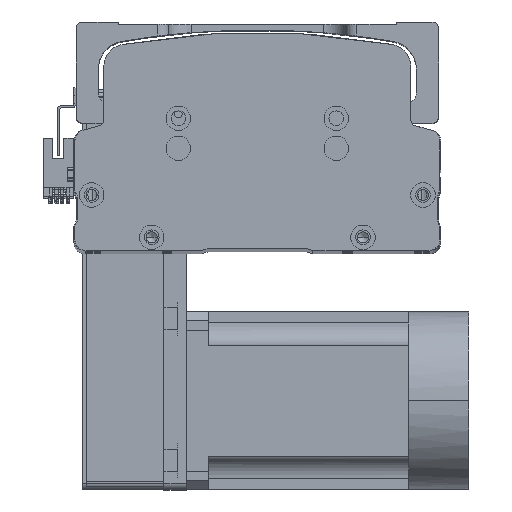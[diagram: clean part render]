
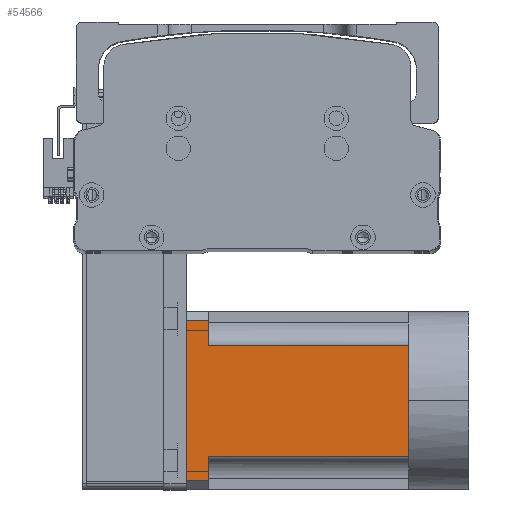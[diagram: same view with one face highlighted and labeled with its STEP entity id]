
A CAD part, top view. The second image highlights one B-rep face of the part: STEP entity #54566.
In plain terms, the highlighted planar face has unit normal (0, 0, 1) as drawn and (0, 0, -1) by its records, which use the part's own axes.
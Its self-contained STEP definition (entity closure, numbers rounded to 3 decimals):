
#206 = VECTOR ( 'NONE', #416, 1000. ) ;
#318 = AXIS2_PLACEMENT_3D ( 'NONE', #56069, #36808, #7682 ) ;
#416 = DIRECTION ( 'NONE',  ( 0., 1., 0. ) ) ;
#1417 = DIRECTION ( 'NONE',  ( -1., 0., 0. ) ) ;
#1751 = EDGE_CURVE ( 'NONE', #3604, #61867, #11589, .T. ) ;
#2684 = LINE ( 'NONE', #28894, #26969 ) ;
#3604 = VERTEX_POINT ( 'NONE', #12046 ) ;
#3977 = ORIENTED_EDGE ( 'NONE', *, *, #29761, .T. ) ;
#5838 = VERTEX_POINT ( 'NONE', #6370 ) ;
#6370 = CARTESIAN_POINT ( 'NONE',  ( 36., 100., -40. ) ) ;
#7682 = DIRECTION ( 'NONE',  ( -1., 0., 0. ) ) ;
#7781 = LINE ( 'NONE', #30631, #57902 ) ;
#8969 = VERTEX_POINT ( 'NONE', #42639 ) ;
#9330 = DIRECTION ( 'NONE',  ( -1., 0., 0. ) ) ;
#9801 = VECTOR ( 'NONE', #55827, 1000. ) ;
#11589 = LINE ( 'NONE', #29490, #206 ) ;
#11627 = EDGE_CURVE ( 'NONE', #34892, #8969, #31180, .T. ) ;
#11924 = VECTOR ( 'NONE', #52700, 1000. ) ;
#12046 = CARTESIAN_POINT ( 'NONE',  ( -36., 90., -40. ) ) ;
#14218 = CARTESIAN_POINT ( 'NONE',  ( 36., -27., -40. ) ) ;
#17837 = CARTESIAN_POINT ( 'NONE',  ( 0., 0., -40. ) ) ;
#18151 = EDGE_CURVE ( 'NONE', #55419, #42629, #2684, .T. ) ;
#18544 = CARTESIAN_POINT ( 'NONE',  ( 25., -27., -40. ) ) ;
#23436 = CARTESIAN_POINT ( 'NONE',  ( -25., 0., -40. ) ) ;
#23802 = DIRECTION ( 'NONE',  ( -1., 0., 0. ) ) ;
#25785 = VERTEX_POINT ( 'NONE', #31193 ) ;
#26969 = VECTOR ( 'NONE', #23802, 1000. ) ;
#26981 = EDGE_CURVE ( 'NONE', #25785, #55419, #35660, .T. ) ;
#27214 = EDGE_CURVE ( 'NONE', #51256, #3604, #50820, .T. ) ;
#27347 = CARTESIAN_POINT ( 'NONE',  ( 36., 90., -40. ) ) ;
#27948 = LINE ( 'NONE', #18544, #39351 ) ;
#28894 = CARTESIAN_POINT ( 'NONE',  ( -40., 0., -40. ) ) ;
#29490 = CARTESIAN_POINT ( 'NONE',  ( -36., -27., -40. ) ) ;
#29761 = EDGE_CURVE ( 'NONE', #5838, #34892, #35294, .T. ) ;
#30631 = CARTESIAN_POINT ( 'NONE',  ( -40., 100., -40. ) ) ;
#31180 = LINE ( 'NONE', #35608, #44090 ) ;
#31193 = CARTESIAN_POINT ( 'NONE',  ( 25., 0., -40. ) ) ;
#31895 = PLANE ( 'NONE',  #318 ) ;
#34892 = VERTEX_POINT ( 'NONE', #27347 ) ;
#35294 = LINE ( 'NONE', #14218, #36802 ) ;
#35382 = CARTESIAN_POINT ( 'NONE',  ( -36., 100., -40. ) ) ;
#35608 = CARTESIAN_POINT ( 'NONE',  ( -40., 90., -40. ) ) ;
#35660 = LINE ( 'NONE', #46336, #9801 ) ;
#36763 = ORIENTED_EDGE ( 'NONE', *, *, #52481, .T. ) ;
#36802 = VECTOR ( 'NONE', #48221, 1000. ) ;
#36808 = DIRECTION ( 'NONE',  ( 0., 0., -1. ) ) ;
#37335 = ORIENTED_EDGE ( 'NONE', *, *, #1751, .T. ) ;
#37562 = FACE_OUTER_BOUND ( 'NONE', #56824, .T. ) ;
#37919 = VECTOR ( 'NONE', #9330, 1000. ) ;
#38969 = ORIENTED_EDGE ( 'NONE', *, *, #26981, .T. ) ;
#39280 = LINE ( 'NONE', #57517, #11924 ) ;
#39351 = VECTOR ( 'NONE', #57380, 1000. ) ;
#42629 = VERTEX_POINT ( 'NONE', #23436 ) ;
#42639 = CARTESIAN_POINT ( 'NONE',  ( 25., 90., -40. ) ) ;
#44090 = VECTOR ( 'NONE', #1417, 1000. ) ;
#46336 = CARTESIAN_POINT ( 'NONE',  ( -40., 0., -40. ) ) ;
#48221 = DIRECTION ( 'NONE',  ( 0., -1., 0. ) ) ;
#48496 = ORIENTED_EDGE ( 'NONE', *, *, #18151, .T. ) ;
#50820 = LINE ( 'NONE', #52888, #37919 ) ;
#51256 = VERTEX_POINT ( 'NONE', #60363 ) ;
#52481 = EDGE_CURVE ( 'NONE', #8969, #25785, #27948, .T. ) ;
#52700 = DIRECTION ( 'NONE',  ( 0., 1., 0. ) ) ;
#52888 = CARTESIAN_POINT ( 'NONE',  ( -40., 90., -40. ) ) ;
#54566 = ADVANCED_FACE ( 'NONE', ( #37562 ), #31895, .T. ) ;
#54819 = DIRECTION ( 'NONE',  ( -1., 0., 0. ) ) ;
#55235 = EDGE_CURVE ( 'NONE', #5838, #61867, #7781, .T. ) ;
#55419 = VERTEX_POINT ( 'NONE', #17837 ) ;
#55827 = DIRECTION ( 'NONE',  ( -1., 0., 0. ) ) ;
#56069 = CARTESIAN_POINT ( 'NONE',  ( -40., -27., -40. ) ) ;
#56623 = ORIENTED_EDGE ( 'NONE', *, *, #55235, .F. ) ;
#56824 = EDGE_LOOP ( 'NONE', ( #56623, #3977, #62358, #36763, #38969, #48496, #59598, #57808, #37335 ) ) ;
#57380 = DIRECTION ( 'NONE',  ( 0., -1., 0. ) ) ;
#57517 = CARTESIAN_POINT ( 'NONE',  ( -25., -27., -40. ) ) ;
#57808 = ORIENTED_EDGE ( 'NONE', *, *, #27214, .T. ) ;
#57902 = VECTOR ( 'NONE', #54819, 1000. ) ;
#58959 = EDGE_CURVE ( 'NONE', #42629, #51256, #39280, .T. ) ;
#59598 = ORIENTED_EDGE ( 'NONE', *, *, #58959, .T. ) ;
#60363 = CARTESIAN_POINT ( 'NONE',  ( -25., 90., -40. ) ) ;
#61867 = VERTEX_POINT ( 'NONE', #35382 ) ;
#62358 = ORIENTED_EDGE ( 'NONE', *, *, #11627, .T. ) ;
